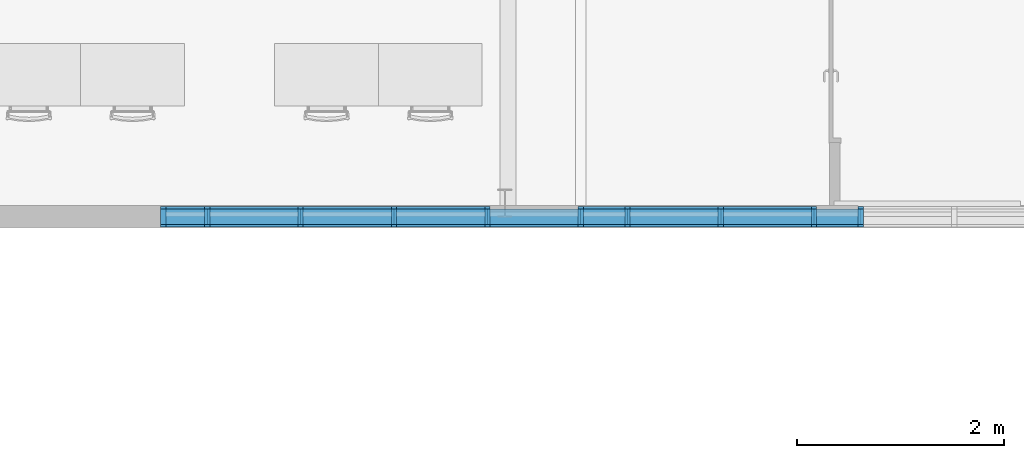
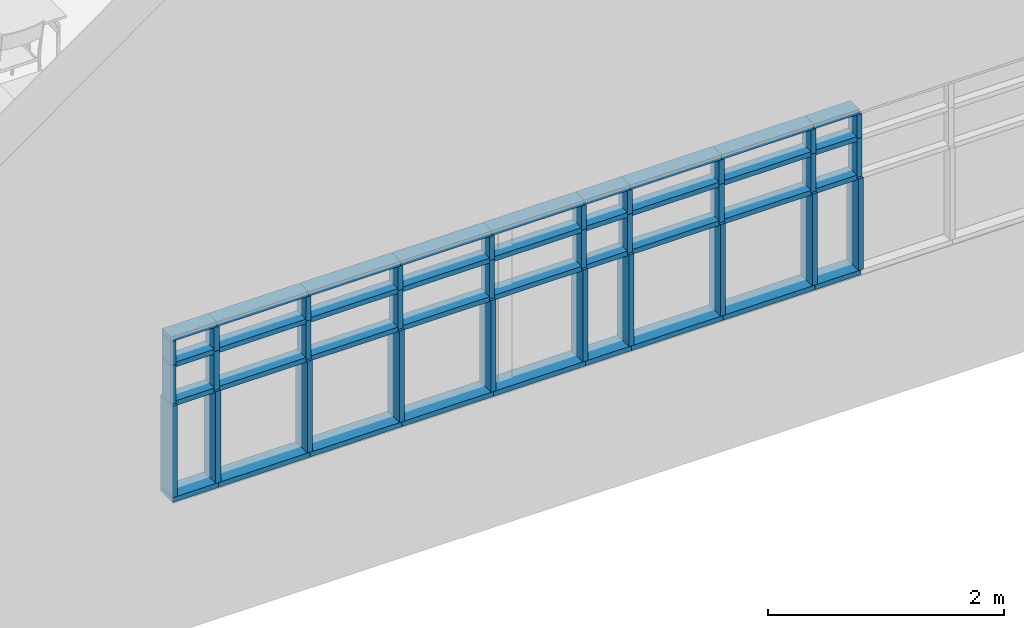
# One storey, part 19 of 137: 66 members, 1 element without a shape of its own.
"""IFC2X3 building model written with IfcOpenShell, lengths in centimetres."""

from ifc_helpers import new_model, entity, si_unit, converted_unit, derived_unit, direction, frame, frame_2d, origin, origin_2d_with_axis, place, context, subcontext, project, spatial, rectangle, extrude, material, type_object, element, aggregate, save


model = new_model("IFC2X3")

# Units and contexts
model_context = context("Model", 3, precision=0.001, world=origin(), true_north=direction((6.12303176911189e-17, 1.0)))
body_context = subcontext(model_context, "Body", "Model", "MODEL_VIEW")
ifc_project = project(units=[si_unit("LENGTHUNIT", "METRE", prefix="CENTI"), si_unit("AREAUNIT", "SQUARE_METRE"), si_unit("VOLUMEUNIT", "CUBIC_METRE"), converted_unit("PLANEANGLEUNIT", "DEGREE", entity("IfcRatioMeasure", 0.0174532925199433), si_unit("PLANEANGLEUNIT", "RADIAN"), dimensions=[0, 0, 0, 0, 0, 0, 0]), si_unit("MASSUNIT", "GRAM", prefix="KILO"), si_unit("TIMEUNIT", "SECOND"), si_unit("FREQUENCYUNIT", "HERTZ"), si_unit("THERMODYNAMICTEMPERATUREUNIT", "DEGREE_CELSIUS"), derived_unit("THERMALTRANSMITTANCEUNIT", [(si_unit("MASSUNIT", "GRAM", prefix="KILO"), 1), (si_unit("THERMODYNAMICTEMPERATUREUNIT", "KELVIN"), -1), (si_unit("TIMEUNIT", "SECOND"), -3)]), derived_unit("VOLUMETRICFLOWRATEUNIT", [(si_unit("LENGTHUNIT", "METRE"), 3), (si_unit("TIMEUNIT", "SECOND"), -1)]), si_unit("ELECTRICCURRENTUNIT", "AMPERE"), si_unit("ELECTRICVOLTAGEUNIT", "VOLT"), si_unit("POWERUNIT", "WATT"), si_unit("FORCEUNIT", "NEWTON", prefix="KILO"), si_unit("ILLUMINANCEUNIT", "LUX"), si_unit("LUMINOUSFLUXUNIT", "LUMEN"), si_unit("LUMINOUSINTENSITYUNIT", "CANDELA"), derived_unit("USERDEFINED", [(si_unit("MASSUNIT", "GRAM", prefix="KILO"), -1), (si_unit("LENGTHUNIT", "METRE"), -2), (si_unit("TIMEUNIT", "SECOND"), 3), (si_unit("LUMINOUSFLUXUNIT", "LUMEN"), 1)]), derived_unit("LINEARVELOCITYUNIT", [(si_unit("LENGTHUNIT", "METRE"), 1), (si_unit("TIMEUNIT", "SECOND"), -1)]), si_unit("PRESSUREUNIT", "PASCAL"), derived_unit("USERDEFINED", [(si_unit("LENGTHUNIT", "METRE"), -2), (si_unit("MASSUNIT", "GRAM", prefix="KILO"), 1), (si_unit("TIMEUNIT", "SECOND"), -2)])], contexts=[model_context])

# Site, building, storey
site_placement = place(None, frame((8.62739174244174, -249.285249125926, 0.0)))
site = spatial("IfcSite", under=ifc_project, at=site_placement, Name="Default", CompositionType="ELEMENT")
building_placement = place(site_placement, origin())
building = spatial("IfcBuilding", under=site, at=building_placement, CompositionType="ELEMENT")
storey_placement = place(building_placement, origin())
storey = spatial("IfcBuildingStorey", under=building, at=storey_placement, Name="RDC", CompositionType="ELEMENT", Elevation=-8.82465566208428e-11)

# Curtain wall, members
curtain_wall_type = type_object("IfcCurtainWallType", Name="Mur-rideau:Simple panneau", PredefinedType="NOTDEFINED")
curtain_wall_placement = place(storey_placement, origin())
curtain_wall = element("IfcCurtainWall", 1, at=curtain_wall_placement, inside=storey, type_object=curtain_wall_type, Name="Mur-rideau:Simple panneau", ObjectType="Mur-rideau:Simple panneau")
ifc_material = material(Name="Plastique, blanc opaque")
member_1_placement = place(curtain_wall_placement, origin())
member_1 = element("IfcMember", 2, at=member_1_placement, material=ifc_material, Name="Mur-rideau:Simple panneau", ObjectType="Mur-rideau:Simple panneau", context=body_context, shape_type="SweptSolid", body=[
    extrude(rectangle(XDim=5.0, YDim=20.0, at=frame_2d((0.0, 1.47437617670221e-13), x_axis=(1.0, 0.0))), frame((199.0, 11.0, 112.500000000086), z_axis=(1.0, 0.0, 0.0), x_axis=(0.0, 0.0, -1.0)), (0.0, 0.0, 1.0), 45.0000000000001),
])
member_2_placement = place(curtain_wall_placement, origin())
member_2 = element("IfcMember", 3, at=member_2_placement, material=ifc_material, Name="Mur-rideau:Simple panneau:661", ObjectType="Mur-rideau:Simple panneau:661", context=body_context, shape_type="SweptSolid", body=[
    extrude(rectangle(XDim=5.0, YDim=15.0, at=frame_2d((0.0, 8.88178419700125e-16), x_axis=(1.0, 0.0))), frame((201.5, 11.0, 275.0), z_axis=(0.0, 0.0, -1.0), x_axis=(-1.0, 0.0, 0.0)), (0.0, 0.0, 1.0), 25.0),
])
member_3_placement = place(curtain_wall_placement, origin())
member_3 = element("IfcMember", 4, at=member_3_placement, material=ifc_material, Name="Mur-rideau:Simple panneau:661", ObjectType="Mur-rideau:Simple panneau:661", context=body_context, shape_type="SweptSolid", body=[
    extrude(rectangle(XDim=5.0, YDim=15.0, at=frame_2d((2.70894418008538e-14, 1.46105350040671e-13), x_axis=(1.0, 0.0))), frame((244.0, 11.0, 277.500000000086), z_axis=(-1.0, 0.0, 0.0), x_axis=(0.0, 0.0, -1.0)), (0.0, 0.0, 1.0), 45.0000000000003),
])
member_4_placement = place(curtain_wall_placement, origin())
member_4 = element("IfcMember", 5, at=member_4_placement, material=ifc_material, Name="Mur-rideau:Simple panneau", ObjectType="Mur-rideau:Simple panneau", context=body_context, shape_type="SweptSolid", body=[
    extrude(rectangle(XDim=5.0, YDim=20.0, at=frame_2d((0.0, 2.91322521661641e-13), x_axis=(1.0, 0.0))), frame((244.0, 11.0, 112.500000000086), z_axis=(1.0, 0.0, 0.0), x_axis=(0.0, 0.0, -1.0)), (0.0, 0.0, 1.0), 90.0),
])
member_5_placement = place(curtain_wall_placement, origin())
member_5 = element("IfcMember", 6, at=member_5_placement, material=ifc_material, Name="Mur-rideau:Simple panneau:661", ObjectType="Mur-rideau:Simple panneau:661", context=body_context, shape_type="SweptSolid", body=[
    extrude(rectangle(XDim=5.0, YDim=15.0, at=frame_2d((2.70894418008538e-14, 2.91766610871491e-13), x_axis=(1.0, 0.0))), frame((334.0, 11.0, 277.500000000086), z_axis=(-1.0, 0.0, 0.0), x_axis=(0.0, 0.0, -1.0)), (0.0, 0.0, 1.0), 89.9999999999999),
])
member_6_placement = place(curtain_wall_placement, origin())
member_6 = element("IfcMember", 7, at=member_6_placement, material=ifc_material, Name="Mur-rideau:Simple panneau", ObjectType="Mur-rideau:Simple panneau", context=body_context, shape_type="SweptSolid", body=[
    extrude(rectangle(XDim=5.0, YDim=20.0, at=frame_2d((0.0, 2.91322521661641e-13), x_axis=(1.0, 0.0))), frame((334.0, 11.0, 112.500000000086), z_axis=(1.0, 0.0, 0.0), x_axis=(0.0, 0.0, -1.0)), (0.0, 0.0, 1.0), 90.0),
])
member_7_placement = place(curtain_wall_placement, origin())
member_7 = element("IfcMember", 8, at=member_7_placement, material=ifc_material, Name="Mur-rideau:Simple panneau:661", ObjectType="Mur-rideau:Simple panneau:661", context=body_context, shape_type="SweptSolid", body=[
    extrude(rectangle(XDim=5.0, YDim=15.0, at=frame_2d((2.70894418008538e-14, 2.91766610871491e-13), x_axis=(1.0, 0.0))), frame((424.0, 11.0, 277.500000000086), z_axis=(-1.0, 0.0, 0.0), x_axis=(0.0, 0.0, -1.0)), (0.0, 0.0, 1.0), 89.9999999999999),
])
member_8_placement = place(curtain_wall_placement, origin())
member_8 = element("IfcMember", 9, at=member_8_placement, material=ifc_material, Name="Mur-rideau:Simple panneau", ObjectType="Mur-rideau:Simple panneau", context=body_context, shape_type="SweptSolid", body=[
    extrude(rectangle(XDim=5.0, YDim=20.0, at=frame_2d((0.0, 2.91322521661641e-13), x_axis=(1.0, 0.0))), frame((424.0, 11.0, 112.500000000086), z_axis=(1.0, 0.0, 0.0), x_axis=(0.0, 0.0, -1.0)), (0.0, 0.0, 1.0), 90.0),
])
member_9_placement = place(curtain_wall_placement, origin())
member_9 = element("IfcMember", 10, at=member_9_placement, material=ifc_material, Name="Mur-rideau:Simple panneau:661", ObjectType="Mur-rideau:Simple panneau:661", context=body_context, shape_type="SweptSolid", body=[
    extrude(rectangle(XDim=5.0, YDim=15.0, at=frame_2d((2.70894418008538e-14, 2.91766610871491e-13), x_axis=(1.0, 0.0))), frame((514.0, 11.0, 277.500000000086), z_axis=(-1.0, 0.0, 0.0), x_axis=(0.0, 0.0, -1.0)), (0.0, 0.0, 1.0), 89.9999999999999),
])
member_10_placement = place(curtain_wall_placement, origin())
member_10 = element("IfcMember", 11, at=member_10_placement, material=ifc_material, Name="Mur-rideau:Simple panneau", ObjectType="Mur-rideau:Simple panneau", context=body_context, shape_type="SweptSolid", body=[
    extrude(rectangle(XDim=5.0, YDim=20.0, at=frame_2d((0.0, 2.91322521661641e-13), x_axis=(1.0, 0.0))), frame((514.0, 11.0, 112.500000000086), z_axis=(1.0, 0.0, 0.0), x_axis=(0.0, 0.0, -1.0)), (0.0, 0.0, 1.0), 90.0000000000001),
])
member_11_placement = place(curtain_wall_placement, origin())
member_11 = element("IfcMember", 12, at=member_11_placement, material=ifc_material, Name="Mur-rideau:Simple panneau:661", ObjectType="Mur-rideau:Simple panneau:661", context=body_context, shape_type="SweptSolid", body=[
    extrude(rectangle(XDim=5.0, YDim=15.0, at=frame_2d((2.70894418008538e-14, 2.91766610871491e-13), x_axis=(1.0, 0.0))), frame((604.0, 11.0, 277.500000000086), z_axis=(-1.0, 0.0, 0.0), x_axis=(0.0, 0.0, -1.0)), (0.0, 0.0, 1.0), 89.9999999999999),
])
member_12_placement = place(curtain_wall_placement, origin())
member_12 = element("IfcMember", 13, at=member_12_placement, material=ifc_material, Name="Mur-rideau:Simple panneau", ObjectType="Mur-rideau:Simple panneau", context=body_context, shape_type="SweptSolid", body=[
    extrude(rectangle(XDim=5.0, YDim=20.0, at=frame_2d((0.0, 1.4388490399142e-13), x_axis=(1.0, 0.0))), frame((604.0, 11.0, 112.500000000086), z_axis=(1.0, 0.0, 0.0), x_axis=(0.0, 0.0, -1.0)), (0.0, 0.0, 1.0), 45.0000000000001),
])
member_13_placement = place(curtain_wall_placement, origin())
member_13 = element("IfcMember", 14, at=member_13_placement, material=ifc_material, Name="Mur-rideau:Simple panneau:661", ObjectType="Mur-rideau:Simple panneau:661", context=body_context, shape_type="SweptSolid", body=[
    extrude(rectangle(XDim=5.0, YDim=15.0, at=frame_2d((2.70894418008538e-14, 1.4432899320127e-13), x_axis=(1.0, 0.0))), frame((649.0, 11.0, 277.500000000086), z_axis=(-1.0, 0.0, 0.0), x_axis=(0.0, 0.0, -1.0)), (0.0, 0.0, 1.0), 45.0000000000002),
])
member_14_placement = place(curtain_wall_placement, origin())
member_14 = element("IfcMember", 15, at=member_14_placement, material=ifc_material, Name="Mur-rideau:Simple panneau", ObjectType="Mur-rideau:Simple panneau", context=body_context, shape_type="SweptSolid", body=[
    extrude(rectangle(XDim=5.0, YDim=20.0, at=frame_2d((0.0, 2.89546164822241e-13), x_axis=(1.0, 0.0))), frame((649.0, 11.0, 112.500000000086), z_axis=(1.0, 0.0, 0.0), x_axis=(0.0, 0.0, -1.0)), (0.0, 0.0, 1.0), 90.0000000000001),
])
member_15_placement = place(curtain_wall_placement, origin())
member_15 = element("IfcMember", 16, at=member_15_placement, material=ifc_material, Name="Mur-rideau:Simple panneau", ObjectType="Mur-rideau:Simple panneau", context=body_context, shape_type="SweptSolid", body=[
    extrude(rectangle(XDim=5.0, YDim=20.0, at=frame_2d((-8.12683254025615e-14, 0.0), x_axis=(1.0, 0.0))), frame((201.5, 11.0, 210.0), z_axis=(0.0, 0.0, -1.0), x_axis=(-1.0, 0.0, 0.0)), (0.0, 0.0, 1.0), 95.0),
])
member_16_placement = place(curtain_wall_placement, origin())
member_16 = element("IfcMember", 17, at=member_16_placement, material=ifc_material, Name="Mur-rideau:Simple panneau:661", ObjectType="Mur-rideau:Simple panneau:661", context=body_context, shape_type="SweptSolid", body=[
    extrude(rectangle(XDim=5.0, YDim=15.0, at=frame_2d((-2.70894418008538e-14, 2.22044604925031e-15), x_axis=(1.0, 0.0))), frame((201.5, 11.0, 250.0), z_axis=(0.0, 0.0, -1.0), x_axis=(-1.0, 0.0, 0.0)), (0.0, 0.0, 1.0), 40.0),
])
member_17_placement = place(curtain_wall_placement, origin())
member_17 = element("IfcMember", 18, at=member_17_placement, material=ifc_material, Name="Mur-rideau:Simple panneau:661", ObjectType="Mur-rideau:Simple panneau:661", context=body_context, shape_type="SweptSolid", body=[
    extrude(rectangle(XDim=5.0, YDim=15.0, at=frame_2d((2.70894418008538e-14, 2.89102075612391e-13), x_axis=(1.0, 0.0))), frame((739.0, 11.0, 277.500000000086), z_axis=(-1.0, 0.0, 0.0), x_axis=(0.0, 0.0, -1.0)), (0.0, 0.0, 1.0), 89.9999999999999),
])
member_18_placement = place(curtain_wall_placement, origin())
member_18 = element("IfcMember", 19, at=member_18_placement, material=ifc_material, Name="Mur-rideau:Simple panneau", ObjectType="Mur-rideau:Simple panneau", context=body_context, shape_type="SweptSolid", body=[
    extrude(rectangle(XDim=5.0, YDim=20.0, at=frame_2d((0.0, 2.91322521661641e-13), x_axis=(1.0, 0.0))), frame((739.0, 11.0, 112.500000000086), z_axis=(1.0, 0.0, 0.0), x_axis=(0.0, 0.0, -1.0)), (0.0, 0.0, 1.0), 90.0000000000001),
])
member_19_placement = place(curtain_wall_placement, origin())
member_19 = element("IfcMember", 20, at=member_19_placement, material=ifc_material, Name="Mur-rideau:Simple panneau:661", ObjectType="Mur-rideau:Simple panneau:661", context=body_context, shape_type="SweptSolid", body=[
    extrude(rectangle(XDim=5.0, YDim=15.0, at=frame_2d((2.70894418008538e-14, 2.89102075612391e-13), x_axis=(1.0, 0.0))), frame((829.0, 11.0, 277.500000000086), z_axis=(-1.0, 0.0, 0.0), x_axis=(0.0, 0.0, -1.0)), (0.0, 0.0, 1.0), 89.9999999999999),
])
member_20_placement = place(curtain_wall_placement, origin())
member_20 = element("IfcMember", 21, at=member_20_placement, material=ifc_material, Name="Mur-rideau:Simple panneau", ObjectType="Mur-rideau:Simple panneau", context=body_context, shape_type="SweptSolid", body=[
    extrude(rectangle(XDim=5.0, YDim=20.0, at=frame_2d((0.0, 1.45661260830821e-13), x_axis=(1.0, 0.0))), frame((829.0, 11.0, 112.500000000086), z_axis=(1.0, 0.0, 0.0), x_axis=(0.0, 0.0, -1.0)), (0.0, 0.0, 1.0), 45.0000000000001),
])
member_21_placement = place(curtain_wall_placement, origin())
member_21 = element("IfcMember", 22, at=member_21_placement, material=ifc_material, Name="Mur-rideau:Simple panneau:661", ObjectType="Mur-rideau:Simple panneau:661", context=body_context, shape_type="SweptSolid", body=[
    extrude(rectangle(XDim=5.0, YDim=15.0, at=frame_2d((2.70894418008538e-14, 1.46993528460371e-13), x_axis=(1.0, 0.0))), frame((874.0, 11.0, 277.500000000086), z_axis=(-1.0, 0.0, 0.0), x_axis=(0.0, 0.0, -1.0)), (0.0, 0.0, 1.0), 45.0000000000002),
])
member_22_placement = place(curtain_wall_placement, origin())
member_22 = element("IfcMember", 23, at=member_22_placement, material=ifc_material, Name="Mur-rideau:Simple panneau:661", ObjectType="Mur-rideau:Simple panneau:661", context=body_context, shape_type="SweptSolid", body=[
    extrude(rectangle(XDim=4.99999999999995, YDim=15.0, at=frame_2d((0.0, 1.27897692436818e-13), x_axis=(1.0, 0.0))), frame((871.5, 11.0, 250.0), z_axis=(-1.0, 0.0, 0.0), x_axis=(0.0, 0.0, -1.0)), (0.0, 0.0, 1.0), 40.0000000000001),
])
member_23_placement = place(curtain_wall_placement, origin())
member_23 = element("IfcMember", 24, at=member_23_placement, material=ifc_material, Name="Mur-rideau:Simple panneau:661", ObjectType="Mur-rideau:Simple panneau:661", context=body_context, shape_type="SweptSolid", body=[
    extrude(rectangle(XDim=4.99999999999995, YDim=15.0, at=frame_2d((0.0, 2.74891220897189e-13), x_axis=(1.0, 0.0))), frame((826.5, 11.0, 250.0), z_axis=(-1.0, 0.0, 0.0), x_axis=(0.0, 0.0, -1.0)), (0.0, 0.0, 1.0), 85.0),
])
member_24_placement = place(curtain_wall_placement, origin())
member_24 = element("IfcMember", 25, at=member_24_placement, material=ifc_material, Name="Mur-rideau:Simple panneau:661", ObjectType="Mur-rideau:Simple panneau:661", context=body_context, shape_type="SweptSolid", body=[
    extrude(rectangle(XDim=4.99999999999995, YDim=15.0, at=frame_2d((0.0, 2.73114864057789e-13), x_axis=(1.0, 0.0))), frame((736.5, 11.0, 250.0), z_axis=(-1.0, 0.0, 0.0), x_axis=(0.0, 0.0, -1.0)), (0.0, 0.0, 1.0), 85.0),
])
member_25_placement = place(curtain_wall_placement, origin())
member_25 = element("IfcMember", 26, at=member_25_placement, material=ifc_material, Name="Mur-rideau:Simple panneau:661", ObjectType="Mur-rideau:Simple panneau:661", context=body_context, shape_type="SweptSolid", body=[
    extrude(rectangle(XDim=4.99999999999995, YDim=15.0, at=frame_2d((0.0, 1.30562227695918e-13), x_axis=(1.0, 0.0))), frame((646.5, 11.0, 250.0), z_axis=(-1.0, 0.0, 0.0), x_axis=(0.0, 0.0, -1.0)), (0.0, 0.0, 1.0), 40.0000000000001),
])
member_26_placement = place(curtain_wall_placement, origin())
member_26 = element("IfcMember", 27, at=member_26_placement, material=ifc_material, Name="Mur-rideau:Simple panneau:661", ObjectType="Mur-rideau:Simple panneau:661", context=body_context, shape_type="SweptSolid", body=[
    extrude(rectangle(XDim=4.99999999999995, YDim=15.0, at=frame_2d((0.0, 2.75779399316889e-13), x_axis=(1.0, 0.0))), frame((601.5, 11.0, 250.0), z_axis=(-1.0, 0.0, 0.0), x_axis=(0.0, 0.0, -1.0)), (0.0, 0.0, 1.0), 85.0),
])
member_27_placement = place(curtain_wall_placement, origin())
member_27 = element("IfcMember", 28, at=member_27_placement, material=ifc_material, Name="Mur-rideau:Simple panneau:661", ObjectType="Mur-rideau:Simple panneau:661", context=body_context, shape_type="SweptSolid", body=[
    extrude(rectangle(XDim=4.99999999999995, YDim=15.0, at=frame_2d((0.0, 2.75779399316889e-13), x_axis=(1.0, 0.0))), frame((511.5, 11.0, 250.0), z_axis=(-1.0, 0.0, 0.0), x_axis=(0.0, 0.0, -1.0)), (0.0, 0.0, 1.0), 85.0),
])
member_28_placement = place(curtain_wall_placement, origin())
member_28 = element("IfcMember", 29, at=member_28_placement, material=ifc_material, Name="Mur-rideau:Simple panneau:661", ObjectType="Mur-rideau:Simple panneau:661", context=body_context, shape_type="SweptSolid", body=[
    extrude(rectangle(XDim=4.99999999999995, YDim=15.0, at=frame_2d((0.0, 2.75779399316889e-13), x_axis=(1.0, 0.0))), frame((421.5, 11.0, 250.0), z_axis=(-1.0, 0.0, 0.0), x_axis=(0.0, 0.0, -1.0)), (0.0, 0.0, 1.0), 85.0),
])
member_29_placement = place(curtain_wall_placement, origin())
member_29 = element("IfcMember", 30, at=member_29_placement, material=ifc_material, Name="Mur-rideau:Simple panneau:661", ObjectType="Mur-rideau:Simple panneau:661", context=body_context, shape_type="SweptSolid", body=[
    extrude(rectangle(XDim=4.99999999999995, YDim=15.0, at=frame_2d((0.0, 2.75779399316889e-13), x_axis=(1.0, 0.0))), frame((331.5, 11.0, 250.0), z_axis=(-1.0, 0.0, 0.0), x_axis=(0.0, 0.0, -1.0)), (0.0, 0.0, 1.0), 85.0),
])
member_30_placement = place(curtain_wall_placement, origin())
member_30 = element("IfcMember", 31, at=member_30_placement, material=ifc_material, Name="Mur-rideau:Simple panneau:661", ObjectType="Mur-rideau:Simple panneau:661", context=body_context, shape_type="SweptSolid", body=[
    extrude(rectangle(XDim=4.99999999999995, YDim=15.0, at=frame_2d((0.0, 1.21680443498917e-13), x_axis=(1.0, 0.0))), frame((241.5, 11.0, 250.0), z_axis=(-1.0, 0.0, 0.0), x_axis=(0.0, 0.0, -1.0)), (0.0, 0.0, 1.0), 37.5000000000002),
])
member_31_placement = place(curtain_wall_placement, origin())
member_31 = element("IfcMember", 32, at=member_31_placement, material=ifc_material, Name="Mur-rideau:Simple panneau:661", ObjectType="Mur-rideau:Simple panneau:661", context=body_context, shape_type="SweptSolid", body=[
    extrude(rectangle(XDim=5.0, YDim=15.0, at=frame_2d((0.0, 1.27897692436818e-13), x_axis=(1.0, 0.0))), frame((871.5, 11.0, 210.0), z_axis=(-1.0, 0.0, 0.0), x_axis=(0.0, 0.0, -1.0)), (0.0, 0.0, 1.0), 40.0000000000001),
])
member_32_placement = place(curtain_wall_placement, origin())
member_32 = element("IfcMember", 33, at=member_32_placement, material=ifc_material, Name="Mur-rideau:Simple panneau:661", ObjectType="Mur-rideau:Simple panneau:661", context=body_context, shape_type="SweptSolid", body=[
    extrude(rectangle(XDim=5.0, YDim=15.0, at=frame_2d((0.0, 2.74891220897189e-13), x_axis=(1.0, 0.0))), frame((826.5, 11.0, 210.0), z_axis=(-1.0, 0.0, 0.0), x_axis=(0.0, 0.0, -1.0)), (0.0, 0.0, 1.0), 85.0),
])
member_33_placement = place(curtain_wall_placement, origin())
member_33 = element("IfcMember", 34, at=member_33_placement, material=ifc_material, Name="Mur-rideau:Simple panneau:661", ObjectType="Mur-rideau:Simple panneau:661", context=body_context, shape_type="SweptSolid", body=[
    extrude(rectangle(XDim=5.0, YDim=15.0, at=frame_2d((0.0, 2.73114864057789e-13), x_axis=(1.0, 0.0))), frame((736.5, 11.0, 210.0), z_axis=(-1.0, 0.0, 0.0), x_axis=(0.0, 0.0, -1.0)), (0.0, 0.0, 1.0), 85.0),
])
member_34_placement = place(curtain_wall_placement, origin())
member_34 = element("IfcMember", 35, at=member_34_placement, material=ifc_material, Name="Mur-rideau:Simple panneau:661", ObjectType="Mur-rideau:Simple panneau:661", context=body_context, shape_type="SweptSolid", body=[
    extrude(rectangle(XDim=5.0, YDim=15.0, at=frame_2d((0.0, 1.30562227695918e-13), x_axis=(1.0, 0.0))), frame((646.5, 11.0, 210.0), z_axis=(-1.0, 0.0, 0.0), x_axis=(0.0, 0.0, -1.0)), (0.0, 0.0, 1.0), 40.0000000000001),
])
member_35_placement = place(curtain_wall_placement, origin())
member_35 = element("IfcMember", 36, at=member_35_placement, material=ifc_material, Name="Mur-rideau:Simple panneau:661", ObjectType="Mur-rideau:Simple panneau:661", context=body_context, shape_type="SweptSolid", body=[
    extrude(rectangle(XDim=5.0, YDim=15.0, at=frame_2d((0.0, 2.75779399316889e-13), x_axis=(1.0, 0.0))), frame((601.5, 11.0, 210.0), z_axis=(-1.0, 0.0, 0.0), x_axis=(0.0, 0.0, -1.0)), (0.0, 0.0, 1.0), 85.0),
])
member_36_placement = place(curtain_wall_placement, origin())
member_36 = element("IfcMember", 37, at=member_36_placement, material=ifc_material, Name="Mur-rideau:Simple panneau:661", ObjectType="Mur-rideau:Simple panneau:661", context=body_context, shape_type="SweptSolid", body=[
    extrude(rectangle(XDim=5.0, YDim=15.0, at=frame_2d((0.0, 2.75779399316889e-13), x_axis=(1.0, 0.0))), frame((511.5, 11.0, 210.0), z_axis=(-1.0, 0.0, 0.0), x_axis=(0.0, 0.0, -1.0)), (0.0, 0.0, 1.0), 85.0),
])
member_37_placement = place(curtain_wall_placement, origin())
member_37 = element("IfcMember", 38, at=member_37_placement, material=ifc_material, Name="Mur-rideau:Simple panneau:661", ObjectType="Mur-rideau:Simple panneau:661", context=body_context, shape_type="SweptSolid", body=[
    extrude(rectangle(XDim=5.0, YDim=15.0, at=frame_2d((0.0, 2.75779399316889e-13), x_axis=(1.0, 0.0))), frame((421.5, 11.0, 210.0), z_axis=(-1.0, 0.0, 0.0), x_axis=(0.0, 0.0, -1.0)), (0.0, 0.0, 1.0), 85.0),
])
member_38_placement = place(curtain_wall_placement, origin())
member_38 = element("IfcMember", 39, at=member_38_placement, material=ifc_material, Name="Mur-rideau:Simple panneau:661", ObjectType="Mur-rideau:Simple panneau:661", context=body_context, shape_type="SweptSolid", body=[
    extrude(rectangle(XDim=5.0, YDim=15.0, at=frame_2d((0.0, 2.75779399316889e-13), x_axis=(1.0, 0.0))), frame((331.5, 11.0, 210.0), z_axis=(-1.0, 0.0, 0.0), x_axis=(0.0, 0.0, -1.0)), (0.0, 0.0, 1.0), 85.0),
])
member_39_placement = place(curtain_wall_placement, origin())
member_39 = element("IfcMember", 40, at=member_39_placement, material=ifc_material, Name="Mur-rideau:Simple panneau:661", ObjectType="Mur-rideau:Simple panneau:661", context=body_context, shape_type="SweptSolid", body=[
    extrude(rectangle(XDim=5.0, YDim=15.0, at=frame_2d((0.0, 1.21680443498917e-13), x_axis=(1.0, 0.0))), frame((241.5, 11.0, 210.0), z_axis=(-1.0, 0.0, 0.0), x_axis=(0.0, 0.0, -1.0)), (0.0, 0.0, 1.0), 37.5000000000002),
])
member_40_placement = place(curtain_wall_placement, origin())
member_40 = element("IfcMember", 41, at=member_40_placement, material=ifc_material, Name="Mur-rideau:Simple panneau:661", ObjectType="Mur-rideau:Simple panneau:661", context=body_context, shape_type="SweptSolid", body=[
    extrude(rectangle(XDim=4.99999999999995, YDim=15.0, at=frame_2d((2.70894418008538e-14, -8.88178419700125e-16), x_axis=(1.0, 0.0))), frame((244.0, 11.0, 250.0), z_axis=(0.0, 0.0, 1.0), x_axis=(-1.0, 0.0, 0.0)), (0.0, 0.0, 1.0), 25.0),
])
member_41_placement = place(curtain_wall_placement, origin())
member_41 = element("IfcMember", 42, at=member_41_placement, material=ifc_material, Name="Mur-rideau:Simple panneau:661", ObjectType="Mur-rideau:Simple panneau:661", context=body_context, shape_type="SweptSolid", body=[
    extrude(rectangle(XDim=5.0, YDim=15.0, at=frame_2d((5.41788836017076e-14, 0.0), x_axis=(1.0, 0.0))), frame((244.0, 11.0, 210.0), z_axis=(0.0, 0.0, 1.0), x_axis=(-1.0, 0.0, 0.0)), (0.0, 0.0, 1.0), 40.0),
])
member_42_placement = place(curtain_wall_placement, origin())
member_42 = element("IfcMember", 43, at=member_42_placement, material=ifc_material, Name="Mur-rideau:Simple panneau", ObjectType="Mur-rideau:Simple panneau", context=body_context, shape_type="SweptSolid", body=[
    extrude(rectangle(XDim=5.0, YDim=20.0, at=frame_2d((5.41788836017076e-14, 1.77635683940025e-15), x_axis=(1.0, 0.0))), frame((244.0, 11.0, 115.0), z_axis=(0.0, 0.0, 1.0), x_axis=(-1.0, 0.0, 0.0)), (0.0, 0.0, 1.0), 95.0),
])
member_43_placement = place(curtain_wall_placement, origin())
member_43 = element("IfcMember", 44, at=member_43_placement, material=ifc_material, Name="Mur-rideau:Simple panneau:661", ObjectType="Mur-rideau:Simple panneau:661", context=body_context, shape_type="SweptSolid", body=[
    extrude(rectangle(XDim=4.99999999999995, YDim=15.0, at=frame_2d((0.0, -8.88178419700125e-16), x_axis=(1.0, 0.0))), frame((334.0, 11.0, 250.0), z_axis=(0.0, 0.0, 1.0), x_axis=(-1.0, 0.0, 0.0)), (0.0, 0.0, 1.0), 25.0),
])
member_44_placement = place(curtain_wall_placement, origin())
member_44 = element("IfcMember", 45, at=member_44_placement, material=ifc_material, Name="Mur-rideau:Simple panneau:661", ObjectType="Mur-rideau:Simple panneau:661", context=body_context, shape_type="SweptSolid", body=[
    extrude(rectangle(XDim=4.99999999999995, YDim=15.0, at=origin_2d_with_axis()), frame((334.0, 11.0, 210.0), z_axis=(0.0, 0.0, 1.0), x_axis=(-1.0, 0.0, 0.0)), (0.0, 0.0, 1.0), 40.0),
])
member_45_placement = place(curtain_wall_placement, origin())
member_45 = element("IfcMember", 46, at=member_45_placement, material=ifc_material, Name="Mur-rideau:Simple panneau", ObjectType="Mur-rideau:Simple panneau", context=body_context, shape_type="SweptSolid", body=[
    extrude(rectangle(XDim=4.99999999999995, YDim=20.0, at=frame_2d((0.0, 1.77635683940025e-15), x_axis=(1.0, 0.0))), frame((334.0, 11.0, 115.0), z_axis=(0.0, 0.0, 1.0), x_axis=(-1.0, 0.0, 0.0)), (0.0, 0.0, 1.0), 95.0),
])
member_46_placement = place(curtain_wall_placement, origin())
member_46 = element("IfcMember", 47, at=member_46_placement, material=ifc_material, Name="Mur-rideau:Simple panneau:661", ObjectType="Mur-rideau:Simple panneau:661", context=body_context, shape_type="SweptSolid", body=[
    extrude(rectangle(XDim=5.00000000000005, YDim=15.0, at=frame_2d((-5.41788836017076e-14, -8.88178419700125e-16), x_axis=(1.0, 0.0))), frame((424.0, 11.0, 250.0), z_axis=(0.0, 0.0, 1.0), x_axis=(-1.0, 0.0, 0.0)), (0.0, 0.0, 1.0), 25.0),
])
member_47_placement = place(curtain_wall_placement, origin())
member_47 = element("IfcMember", 48, at=member_47_placement, material=ifc_material, Name="Mur-rideau:Simple panneau:661", ObjectType="Mur-rideau:Simple panneau:661", context=body_context, shape_type="SweptSolid", body=[
    extrude(rectangle(XDim=4.99999999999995, YDim=15.0, at=origin_2d_with_axis()), frame((424.0, 11.0, 210.0), z_axis=(0.0, 0.0, 1.0), x_axis=(-1.0, 0.0, 0.0)), (0.0, 0.0, 1.0), 40.0),
])
member_48_placement = place(curtain_wall_placement, origin())
member_48 = element("IfcMember", 49, at=member_48_placement, material=ifc_material, Name="Mur-rideau:Simple panneau", ObjectType="Mur-rideau:Simple panneau", context=body_context, shape_type="SweptSolid", body=[
    extrude(rectangle(XDim=5.00000000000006, YDim=20.0, at=frame_2d((-1.62536650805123e-13, 1.77635683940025e-15), x_axis=(1.0, 0.0))), frame((424.0, 11.0, 115.0), z_axis=(0.0, 0.0, 1.0), x_axis=(-1.0, 0.0, 0.0)), (0.0, 0.0, 1.0), 95.0),
])
member_49_placement = place(curtain_wall_placement, origin())
member_49 = element("IfcMember", 50, at=member_49_placement, material=ifc_material, Name="Mur-rideau:Simple panneau:661", ObjectType="Mur-rideau:Simple panneau:661", context=body_context, shape_type="SweptSolid", body=[
    extrude(rectangle(XDim=4.99999999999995, YDim=15.0, at=frame_2d((0.0, -8.88178419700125e-16), x_axis=(1.0, 0.0))), frame((514.0, 11.0, 250.0), z_axis=(0.0, 0.0, 1.0), x_axis=(-1.0, 0.0, 0.0)), (0.0, 0.0, 1.0), 25.0),
])
member_50_placement = place(curtain_wall_placement, origin())
member_50 = element("IfcMember", 51, at=member_50_placement, material=ifc_material, Name="Mur-rideau:Simple panneau:661", ObjectType="Mur-rideau:Simple panneau:661", context=body_context, shape_type="SweptSolid", body=[
    extrude(rectangle(XDim=4.99999999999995, YDim=15.0, at=origin_2d_with_axis()), frame((514.0, 11.0, 210.0), z_axis=(0.0, 0.0, 1.0), x_axis=(-1.0, 0.0, 0.0)), (0.0, 0.0, 1.0), 40.0),
])
member_51_placement = place(curtain_wall_placement, origin())
member_51 = element("IfcMember", 52, at=member_51_placement, material=ifc_material, Name="Mur-rideau:Simple panneau", ObjectType="Mur-rideau:Simple panneau", context=body_context, shape_type="SweptSolid", body=[
    extrude(rectangle(XDim=4.99999999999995, YDim=20.0, at=frame_2d((0.0, 1.77635683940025e-15), x_axis=(1.0, 0.0))), frame((514.0, 11.0, 115.0), z_axis=(0.0, 0.0, 1.0), x_axis=(-1.0, 0.0, 0.0)), (0.0, 0.0, 1.0), 95.0),
])
member_52_placement = place(curtain_wall_placement, origin())
member_52 = element("IfcMember", 53, at=member_52_placement, material=ifc_material, Name="Mur-rideau:Simple panneau:661", ObjectType="Mur-rideau:Simple panneau:661", context=body_context, shape_type="SweptSolid", body=[
    extrude(rectangle(XDim=4.99999999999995, YDim=15.0, at=frame_2d((0.0, -8.88178419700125e-16), x_axis=(1.0, 0.0))), frame((604.0, 11.0, 250.0), z_axis=(0.0, 0.0, 1.0), x_axis=(-1.0, 0.0, 0.0)), (0.0, 0.0, 1.0), 25.0),
])
member_53_placement = place(curtain_wall_placement, origin())
member_53 = element("IfcMember", 54, at=member_53_placement, material=ifc_material, Name="Mur-rideau:Simple panneau:661", ObjectType="Mur-rideau:Simple panneau:661", context=body_context, shape_type="SweptSolid", body=[
    extrude(rectangle(XDim=4.99999999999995, YDim=15.0, at=origin_2d_with_axis()), frame((604.0, 11.0, 210.0), z_axis=(0.0, 0.0, 1.0), x_axis=(-1.0, 0.0, 0.0)), (0.0, 0.0, 1.0), 40.0),
])
member_54_placement = place(curtain_wall_placement, origin())
member_54 = element("IfcMember", 55, at=member_54_placement, material=ifc_material, Name="Mur-rideau:Simple panneau", ObjectType="Mur-rideau:Simple panneau", context=body_context, shape_type="SweptSolid", body=[
    extrude(rectangle(XDim=4.99999999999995, YDim=20.0, at=frame_2d((0.0, 1.77635683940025e-15), x_axis=(1.0, 0.0))), frame((604.0, 11.0, 115.0), z_axis=(0.0, 0.0, 1.0), x_axis=(-1.0, 0.0, 0.0)), (0.0, 0.0, 1.0), 95.0),
])
member_55_placement = place(curtain_wall_placement, origin())
member_55 = element("IfcMember", 56, at=member_55_placement, material=ifc_material, Name="Mur-rideau:Simple panneau:661", ObjectType="Mur-rideau:Simple panneau:661", context=body_context, shape_type="SweptSolid", body=[
    extrude(rectangle(XDim=4.99999999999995, YDim=15.0, at=frame_2d((0.0, 8.88178419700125e-16), x_axis=(1.0, 0.0))), frame((649.0, 11.0, 250.0), z_axis=(0.0, 0.0, 1.0), x_axis=(-1.0, 0.0, 0.0)), (0.0, 0.0, 1.0), 25.0),
])
member_56_placement = place(curtain_wall_placement, origin())
member_56 = element("IfcMember", 57, at=member_56_placement, material=ifc_material, Name="Mur-rideau:Simple panneau:661", ObjectType="Mur-rideau:Simple panneau:661", context=body_context, shape_type="SweptSolid", body=[
    extrude(rectangle(XDim=4.99999999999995, YDim=15.0, at=origin_2d_with_axis()), frame((649.0, 11.0, 210.0), z_axis=(0.0, 0.0, 1.0), x_axis=(-1.0, 0.0, 0.0)), (0.0, 0.0, 1.0), 40.0),
])
member_57_placement = place(curtain_wall_placement, origin())
member_57 = element("IfcMember", 58, at=member_57_placement, material=ifc_material, Name="Mur-rideau:Simple panneau", ObjectType="Mur-rideau:Simple panneau", context=body_context, shape_type="SweptSolid", body=[
    extrude(rectangle(XDim=4.99999999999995, YDim=20.0, at=origin_2d_with_axis()), frame((649.0, 11.0, 115.0), z_axis=(0.0, 0.0, 1.0), x_axis=(-1.0, 0.0, 0.0)), (0.0, 0.0, 1.0), 95.0),
])
member_58_placement = place(curtain_wall_placement, origin())
member_58 = element("IfcMember", 59, at=member_58_placement, material=ifc_material, Name="Mur-rideau:Simple panneau:661", ObjectType="Mur-rideau:Simple panneau:661", context=body_context, shape_type="SweptSolid", body=[
    extrude(rectangle(XDim=4.99999999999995, YDim=15.0, at=frame_2d((0.0, -1.77635683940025e-15), x_axis=(1.0, 0.0))), frame((739.0, 11.0, 250.0), z_axis=(0.0, 0.0, 1.0), x_axis=(-1.0, 0.0, 0.0)), (0.0, 0.0, 1.0), 25.0),
])
member_59_placement = place(curtain_wall_placement, origin())
member_59 = element("IfcMember", 60, at=member_59_placement, material=ifc_material, Name="Mur-rideau:Simple panneau:661", ObjectType="Mur-rideau:Simple panneau:661", context=body_context, shape_type="SweptSolid", body=[
    extrude(rectangle(XDim=4.99999999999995, YDim=15.0, at=frame_2d((0.0, 8.88178419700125e-16), x_axis=(1.0, 0.0))), frame((739.0, 11.0, 210.0), z_axis=(0.0, 0.0, 1.0), x_axis=(-1.0, 0.0, 0.0)), (0.0, 0.0, 1.0), 40.0),
])
member_60_placement = place(curtain_wall_placement, origin())
member_60 = element("IfcMember", 61, at=member_60_placement, material=ifc_material, Name="Mur-rideau:Simple panneau", ObjectType="Mur-rideau:Simple panneau", context=body_context, shape_type="SweptSolid", body=[
    extrude(rectangle(XDim=4.99999999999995, YDim=20.0, at=frame_2d((1.08357767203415e-13, -1.77635683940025e-15), x_axis=(1.0, 0.0))), frame((739.0, 11.0, 115.0), z_axis=(0.0, 0.0, 1.0), x_axis=(-1.0, 0.0, 0.0)), (0.0, 0.0, 1.0), 95.0),
])
member_61_placement = place(curtain_wall_placement, origin())
member_61 = element("IfcMember", 62, at=member_61_placement, material=ifc_material, Name="Mur-rideau:Simple panneau:661", ObjectType="Mur-rideau:Simple panneau:661", context=body_context, shape_type="SweptSolid", body=[
    extrude(rectangle(XDim=4.99999999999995, YDim=15.0, at=frame_2d((-1.08357767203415e-13, -1.77635683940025e-15), x_axis=(1.0, 0.0))), frame((829.0, 11.0, 250.0), z_axis=(0.0, 0.0, 1.0), x_axis=(-1.0, 0.0, 0.0)), (0.0, 0.0, 1.0), 25.0),
])
member_62_placement = place(curtain_wall_placement, origin())
member_62 = element("IfcMember", 63, at=member_62_placement, material=ifc_material, Name="Mur-rideau:Simple panneau:661", ObjectType="Mur-rideau:Simple panneau:661", context=body_context, shape_type="SweptSolid", body=[
    extrude(rectangle(XDim=4.99999999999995, YDim=15.0, at=frame_2d((-1.08357767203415e-13, 8.88178419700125e-16), x_axis=(1.0, 0.0))), frame((829.0, 11.0, 210.0), z_axis=(0.0, 0.0, 1.0), x_axis=(-1.0, 0.0, 0.0)), (0.0, 0.0, 1.0), 40.0),
])
member_63_placement = place(curtain_wall_placement, origin())
member_63 = element("IfcMember", 64, at=member_63_placement, material=ifc_material, Name="Mur-rideau:Simple panneau", ObjectType="Mur-rideau:Simple panneau", context=body_context, shape_type="SweptSolid", body=[
    extrude(rectangle(XDim=4.99999999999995, YDim=20.0, at=frame_2d((0.0, -1.77635683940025e-15), x_axis=(1.0, 0.0))), frame((829.0, 11.0, 115.0), z_axis=(0.0, 0.0, 1.0), x_axis=(-1.0, 0.0, 0.0)), (0.0, 0.0, 1.0), 95.0),
])
member_64_placement = place(curtain_wall_placement, origin())
member_64 = element("IfcMember", 65, at=member_64_placement, material=ifc_material, Name="Mur-rideau:Simple panneau:661", ObjectType="Mur-rideau:Simple panneau:661", context=body_context, shape_type="SweptSolid", body=[
    extrude(rectangle(XDim=4.99999999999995, YDim=15.0, at=frame_2d((0.0, 1.33226762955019e-15), x_axis=(1.0, 0.0))), frame((874.0, 11.0, 250.0), z_axis=(0.0, 0.0, 1.0), x_axis=(-1.0, 0.0, 0.0)), (0.0, 0.0, 1.0), 25.0),
])
member_65_placement = place(curtain_wall_placement, origin())
member_65 = element("IfcMember", 66, at=member_65_placement, material=ifc_material, Name="Mur-rideau:Simple panneau:661", ObjectType="Mur-rideau:Simple panneau:661", context=body_context, shape_type="SweptSolid", body=[
    extrude(rectangle(XDim=4.99999999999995, YDim=15.0, at=frame_2d((0.0, 2.22044604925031e-15), x_axis=(1.0, 0.0))), frame((874.0, 11.0, 210.0), z_axis=(0.0, 0.0, 1.0), x_axis=(-1.0, 0.0, 0.0)), (0.0, 0.0, 1.0), 40.0),
])
member_66_placement = place(curtain_wall_placement, origin())
member_66 = element("IfcMember", 67, at=member_66_placement, material=ifc_material, Name="Mur-rideau:Simple panneau", ObjectType="Mur-rideau:Simple panneau", context=body_context, shape_type="SweptSolid", body=[
    extrude(rectangle(XDim=4.99999999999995, YDim=20.0, at=frame_2d((0.0, 1.77635683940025e-15), x_axis=(1.0, 0.0))), frame((874.0, 11.0, 115.0), z_axis=(0.0, 0.0, 1.0), x_axis=(-1.0, 0.0, 0.0)), (0.0, 0.0, 1.0), 95.0),
])
aggregate(curtain_wall, [member_1, member_2, member_3, member_4, member_5, member_6, member_7, member_8, member_9, member_10, member_11, member_12, member_13, member_14, member_15, member_16, member_17, member_18, member_19, member_20, member_21, member_22, member_23, member_24, member_25, member_26, member_27, member_28, member_29, member_30, member_31, member_32, member_33, member_34, member_35, member_36, member_37, member_38, member_39, member_40, member_41, member_42, member_43, member_44, member_45, member_46, member_47, member_48, member_49, member_50, member_51, member_52, member_53, member_54, member_55, member_56, member_57, member_58, member_59, member_60, member_61, member_62, member_63, member_64, member_65, member_66])

save(model, "model.ifc")
